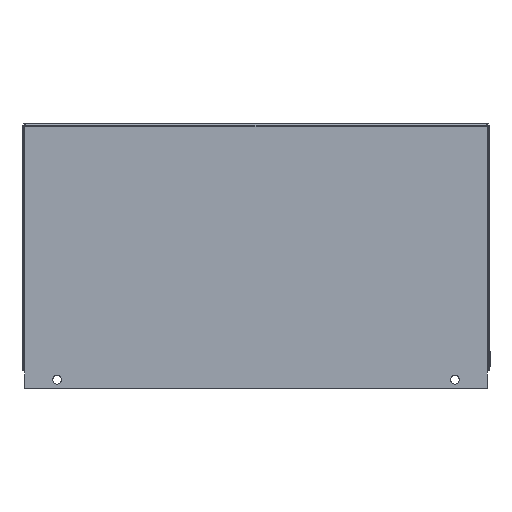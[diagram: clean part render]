
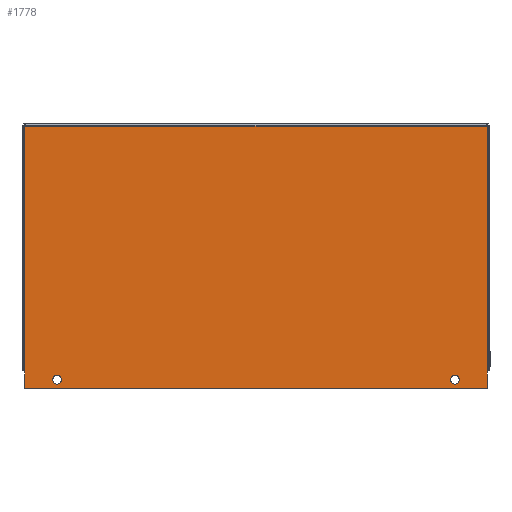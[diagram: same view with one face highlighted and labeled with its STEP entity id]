
A CAD part, left-side view. The second image highlights one B-rep face of the part: STEP entity #1778.
In plain terms, the highlighted planar face has unit normal (-1, 0, 0) as drawn and (0, 0, -1) by its records, which use the part's own axes.
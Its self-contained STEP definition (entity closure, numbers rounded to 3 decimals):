
#622=CARTESIAN_POINT('',(125.628,62.37,0.0));
#623=VERTEX_POINT('',#622);
#630=CARTESIAN_POINT('',(125.628,71.895,0.0));
#631=VERTEX_POINT('',#630);
#632=CARTESIAN_POINT('',(125.628,62.37,0.0));
#633=DIRECTION('',(0.0,1.0,0.0));
#634=VECTOR('',#633,9.525);
#635=LINE('',#632,#634);
#636=EDGE_CURVE('',#623,#631,#635,.T.);
#660=CARTESIAN_POINT('',(-125.628,71.895,0.0));
#661=VERTEX_POINT('',#660);
#677=CARTESIAN_POINT('',(125.628,71.895,0.0));
#678=DIRECTION('',(-1.0,0.0,0.0));
#679=VECTOR('',#678,251.257);
#680=LINE('',#677,#679);
#681=EDGE_CURVE('',#631,#661,#680,.T.);
#846=CARTESIAN_POINT('',(125.628,-70.308,0.0));
#847=VERTEX_POINT('',#846);
#1000=CARTESIAN_POINT('',(125.628,-70.308,0.0));
#1001=DIRECTION('',(0.0,1.0,0.0));
#1002=VECTOR('',#1001,132.678);
#1003=LINE('',#1000,#1002);
#1004=EDGE_CURVE('',#847,#623,#1003,.T.);
#1179=CARTESIAN_POINT('',(125.413,-70.523,0.0));
#1180=VERTEX_POINT('',#1179);
#1317=CARTESIAN_POINT('',(-125.413,-70.523,0.0));
#1318=VERTEX_POINT('',#1317);
#1440=CARTESIAN_POINT('',(-125.413,-70.523,0.0));
#1441=DIRECTION('',(1.0,0.0,0.0));
#1442=VECTOR('',#1441,250.826);
#1443=LINE('',#1440,#1442);
#1444=EDGE_CURVE('',#1318,#1180,#1443,.T.);
#1504=CARTESIAN_POINT('',(126.276,-71.171,0.0));
#1505=DIRECTION('',(0.0,0.0,1.0));
#1506=DIRECTION('',(1.0,0.0,0.0));
#1507=AXIS2_PLACEMENT_3D('',#1504,#1505,#1506);
#1508=CIRCLE('',#1507,1.08);
#1509=EDGE_CURVE('',#847,#1180,#1508,.T.);
#1547=CARTESIAN_POINT('',(-125.628,-70.308,0.0));
#1548=VERTEX_POINT('',#1547);
#1555=CARTESIAN_POINT('',(-126.276,-71.171,0.0));
#1556=DIRECTION('',(0.0,0.0,1.0));
#1557=DIRECTION('',(-1.0,0.0,0.0));
#1558=AXIS2_PLACEMENT_3D('',#1555,#1556,#1557);
#1559=CIRCLE('',#1558,1.08);
#1560=EDGE_CURVE('',#1318,#1548,#1559,.T.);
#1676=CARTESIAN_POINT('',(-125.628,62.37,0.0));
#1677=VERTEX_POINT('',#1676);
#1727=CARTESIAN_POINT('',(-125.628,62.37,0.0));
#1728=DIRECTION('',(0.0,1.0,0.0));
#1729=VECTOR('',#1728,9.525);
#1730=LINE('',#1727,#1729);
#1731=EDGE_CURVE('',#1677,#661,#1730,.T.);
#1736=CARTESIAN_POINT('',(-127.,-71.895,0.0));
#1737=DIRECTION('',(0.0,0.0,1.0));
#1738=DIRECTION('',(1.0,0.0,0.0));
#1739=AXIS2_PLACEMENT_3D('',#1736,#1737,#1738);
#1740=PLANE('',#1739);
#1741=ORIENTED_EDGE('',*,*,#1004,.F.);
#1742=ORIENTED_EDGE('',*,*,#1509,.T.);
#1743=ORIENTED_EDGE('',*,*,#1444,.F.);
#1744=ORIENTED_EDGE('',*,*,#1560,.T.);
#1745=CARTESIAN_POINT('',(-125.628,-70.308,0.0));
#1746=DIRECTION('',(0.0,1.0,0.0));
#1747=VECTOR('',#1746,132.678);
#1748=LINE('',#1745,#1747);
#1749=EDGE_CURVE('',#1548,#1677,#1748,.T.);
#1750=ORIENTED_EDGE('',*,*,#1749,.T.);
#1751=ORIENTED_EDGE('',*,*,#1731,.T.);
#1752=ORIENTED_EDGE('',*,*,#681,.F.);
#1753=ORIENTED_EDGE('',*,*,#636,.F.);
#1754=EDGE_LOOP('',(#1741,#1742,#1743,#1744,#1750,#1751,#1752,#1753));
#1755=FACE_OUTER_BOUND('',#1754,.T.);
#1756=CARTESIAN_POINT('',(-105.543,67.132,0.0));
#1757=VERTEX_POINT('',#1756);
#1758=CARTESIAN_POINT('',(-107.925,67.132,0.0));
#1759=DIRECTION('',(0.0,0.0,1.0));
#1760=DIRECTION('',(1.0,0.0,0.0));
#1761=AXIS2_PLACEMENT_3D('',#1758,#1759,#1760);
#1762=CIRCLE('',#1761,2.381);
#1763=EDGE_CURVE('',#1757,#1757,#1762,.T.);
#1764=ORIENTED_EDGE('',*,*,#1763,.T.);
#1765=EDGE_LOOP('',(#1764));
#1766=FACE_BOUND('',#1765,.T.);
#1767=CARTESIAN_POINT('',(110.306,67.132,0.0));
#1768=VERTEX_POINT('',#1767);
#1769=CARTESIAN_POINT('',(107.925,67.132,0.0));
#1770=DIRECTION('',(0.0,0.0,1.0));
#1771=DIRECTION('',(1.0,0.0,0.0));
#1772=AXIS2_PLACEMENT_3D('',#1769,#1770,#1771);
#1773=CIRCLE('',#1772,2.381);
#1774=EDGE_CURVE('',#1768,#1768,#1773,.T.);
#1775=ORIENTED_EDGE('',*,*,#1774,.T.);
#1776=EDGE_LOOP('',(#1775));
#1777=FACE_BOUND('',#1776,.T.);
#1778=ADVANCED_FACE('',(#1755,#1766,#1777),#1740,.F.);
